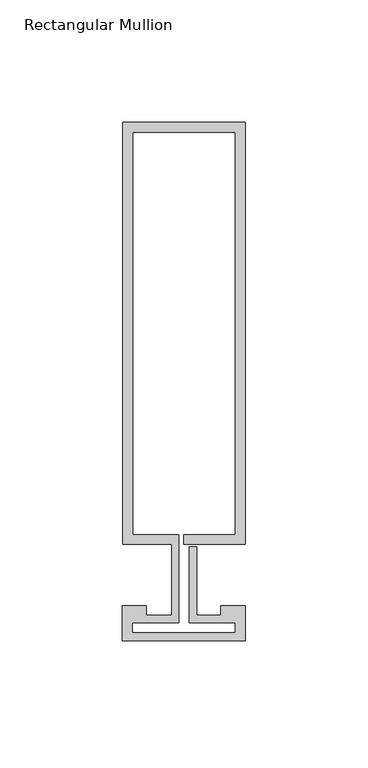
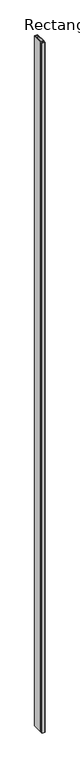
"""IFC4 building model written with IfcOpenShell, lengths in millimetres: member geometry, Rectangular Mullion : Reynaers_CW-50_Mullion-Transom_Horizontal_172.4mm_Facecap-02A."""

from ifc_helpers import new_model, si_unit, frame, origin, place, context, project, spatial, polyline, outline, extrude, source, transform, mapped, element, save


def rectangular_mullion_405eaec0(model_context):
    return source(origin(), model_context, "Body", "SweptSolid", [
        extrude(outline(polyline([(-24.8004059, 184.9), (25.1995941, 184.9), (25.1995941, 12.5), (0.0, 12.5), (0.0, 16.5), (21.1995941, 16.5), (21.1995941, 180.9), (-20.8004059, 180.9), (-20.8004059, 16.5), (-1.9004059, 16.5), (-1.9004059, -19.5), (-20.994845, -19.5), (-20.994845, -23.7191338), (21.1995941, -23.7191338), (21.1995941, -19.5), (2.2995941, -19.5), (2.2995941, 11.5), (5.2995941, 11.5), (5.2995941, -16.5), (15.2996495, -16.5), (15.2996495, -12.5), (25.1995941, -12.5), (25.1995941, -26.8), (-24.994845, -26.8), (-24.994845, -12.5), (-15.2996495, -12.5), (-15.2996495, -16.5), (-4.9004059, -16.5), (-4.9004059, 12.5), (-24.8004059, 12.5), (-24.8004059, 184.9)])), frame((0.0, 0.0, -12000.0), z_axis=(0.0, 0.0, 1.0), x_axis=(1.0, 0.0, 0.0)), (0.0, 0.0, 1.0), 12000.0),
    ])


if __name__ == "__main__":
    model = new_model("IFC4")
    model_context = context("Model", 3, world=origin())
    ifc_project = project(units=[si_unit("LENGTHUNIT", "METRE", prefix="MILLI")], contexts=[model_context])
    site = spatial("IfcSite", under=ifc_project)
    building = spatial("IfcBuilding", under=site)
    placement = place(None, origin())
    rectangular_mullion_shape = rectangular_mullion_405eaec0(model_context)
    element("IfcMember", 1, ObjectType="Rectangular Mullion : Reynaers_CW-50_Mullion-Transom_Horizontal_172.4mm_Facecap-02A", at=placement, inside=building, context=model_context, shape_type="MappedRepresentation", body=[
        mapped(rectangular_mullion_shape, transform((0.0, 0.0, 0.0), x_axis=(1.0, 0.0, 0.0), y_axis=(0.0, 1.0, 0.0), z_axis=(0.0, 0.0, 1.0))),
    ])
    save(model, "model.ifc")
